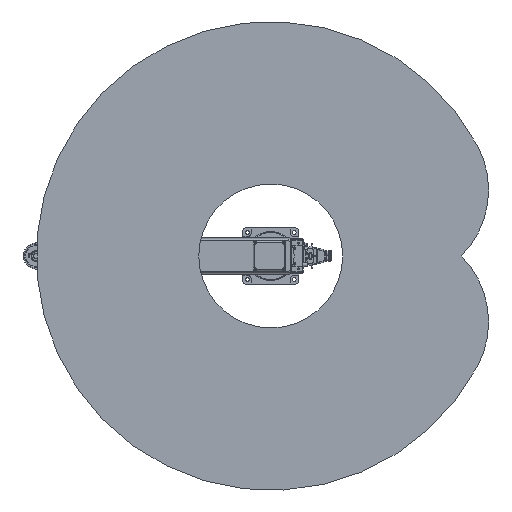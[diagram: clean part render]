
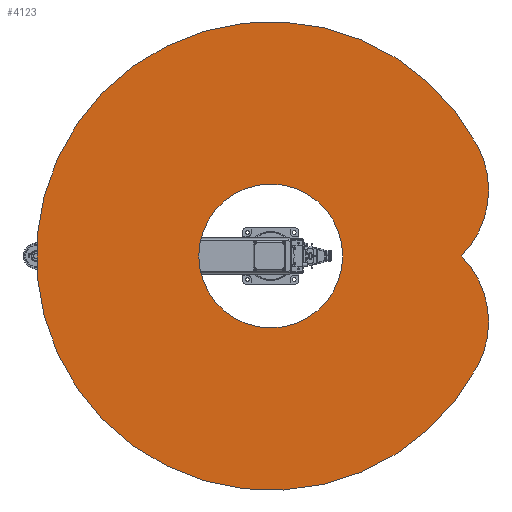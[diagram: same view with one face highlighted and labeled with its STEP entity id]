
A CAD part, front view. The second image highlights one B-rep face of the part: STEP entity #4123.
In plain terms, the highlighted planar face has unit normal (0, -1, 0).
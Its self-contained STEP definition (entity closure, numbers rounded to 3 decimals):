
#4123 = ADVANCED_FACE( '', ( #10213, #10214 ), #10215, .F. );
#10213 = FACE_BOUND( '', #18947, .T. );
#10214 = FACE_OUTER_BOUND( '', #18948, .T. );
#10215 = PLANE( '', #18949 );
#18947 = EDGE_LOOP( '', ( #32097 ) );
#18948 = EDGE_LOOP( '', ( #32098, #32099, #32100 ) );
#18949 = AXIS2_PLACEMENT_3D( '', #32101, #32102, #32103 );
#32097 = ORIENTED_EDGE( '', *, *, #50248, .T. );
#32098 = ORIENTED_EDGE( '', *, *, #47137, .F. );
#32099 = ORIENTED_EDGE( '', *, *, #50249, .F. );
#32100 = ORIENTED_EDGE( '', *, *, #50250, .F. );
#32101 = CARTESIAN_POINT( '', ( 140.842, 0., 264.885 ) );
#32102 = DIRECTION( '', ( 0., 1., 0. ) );
#32103 = DIRECTION( '', ( 0., 0., 1. ) );
#47137 = EDGE_CURVE( '', #55340, #55341, #55342, .T. );
#50248 = EDGE_CURVE( '', #60546, #60546, #60547, .T. );
#50249 = EDGE_CURVE( '', #60548, #55340, #60549, .T. );
#50250 = EDGE_CURVE( '', #55341, #60548, #60550, .T. );
#55340 = VERTEX_POINT( '', #67453 );
#55341 = VERTEX_POINT( '', #67454 );
#55342 = CIRCLE( '', #67455, 400. );
#60546 = VERTEX_POINT( '', #75755 );
#60547 = CIRCLE( '', #75756, 307. );
#60548 = VERTEX_POINT( '', #75757 );
#60549 = CIRCLE( '', #75758, 400. );
#60550 = CIRCLE( '', #75759, 1000. );
#67453 = CARTESIAN_POINT( '', ( 0., 0., 813.767 ) );
#67454 = CARTESIAN_POINT( '', ( 468.809, 0., 883.299 ) );
#67455 = AXIS2_PLACEMENT_3D( '', #86583, #86584, #86585 );
#75755 = CARTESIAN_POINT( '', ( 307., 0., 0. ) );
#75756 = AXIS2_PLACEMENT_3D( '', #90573, #90574, #90575 );
#75757 = CARTESIAN_POINT( '', ( -468.809, 0., 883.299 ) );
#75758 = AXIS2_PLACEMENT_3D( '', #90576, #90577, #90578 );
#75759 = AXIS2_PLACEMENT_3D( '', #90579, #90580, #90581 );
#86583 = CARTESIAN_POINT( '', ( 281.683, 0., 529.769 ) );
#86584 = DIRECTION( '', ( 0., 1., 0. ) );
#86585 = DIRECTION( '', ( 1., 0., 0. ) );
#90573 = CARTESIAN_POINT( '', ( 0., 0., 0. ) );
#90574 = DIRECTION( '', ( 0., 1., 0. ) );
#90575 = DIRECTION( '', ( 1., 0., 0. ) );
#90576 = CARTESIAN_POINT( '', ( -281.683, 0., 529.769 ) );
#90577 = DIRECTION( '', ( 0., 1., 0. ) );
#90578 = DIRECTION( '', ( 1., 0., 0. ) );
#90579 = CARTESIAN_POINT( '', ( 0., 0., 0. ) );
#90580 = DIRECTION( '', ( 0., 1., 0. ) );
#90581 = DIRECTION( '', ( 1., 0., 0. ) );
